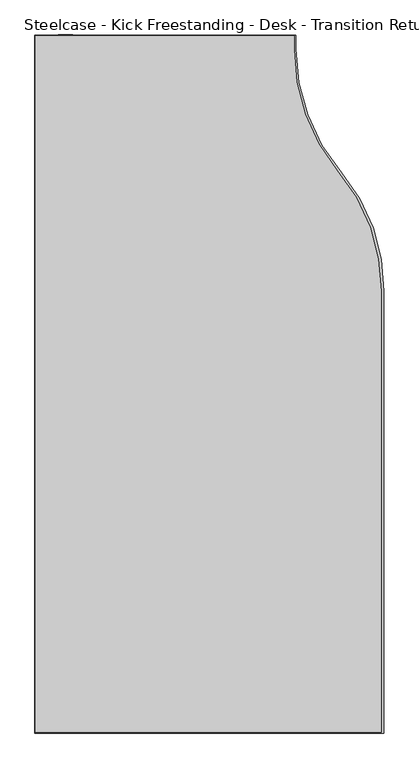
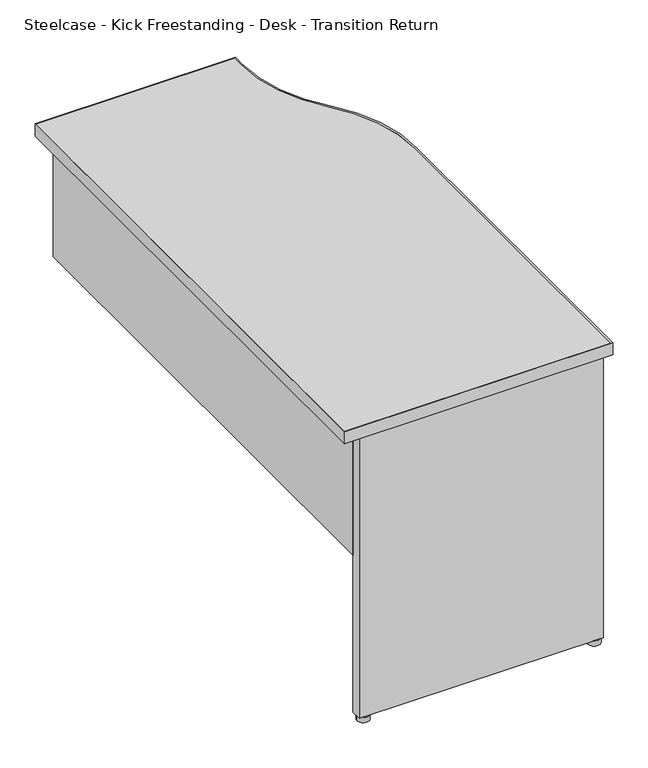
"""IFC4 building model written with IfcOpenShell, lengths in millimetres: furniture geometry, Steelcase - Kick Freestanding - Desk - Transition Return : 18D x 48W - Left - Half Panel."""

import ifcopenshell
import ifcopenshell.guid

model = None  # the IFC model being written
_history = None  # IfcOwnerHistory: only IFC2X3 demands one
_inside = {}  # id of a spatial element -> (the spatial element, [elements in it])
_under = {}  # id of a project, library or spatial element -> (it, [spatial elements below it])
_declared = {}  # id of a project -> (the project, [libraries it declares])
_typed = {}  # id of a type object -> (the type object, [elements of that type])
_made_of = {}  # id of a material, layer set ... -> (it, [elements and type objects made of it])


def new_model(schema):
    """Start an empty IFC model of exactly this schema.

    Asked for "IFC4X3", IfcOpenShell would pick the latest addendum, in which some entities
    have other attributes; the version numbers below select the first issue.
    IFC2X3 requires an IfcOwnerHistory on every rooted entity: one is made here for all.
    """
    global model, _history
    if schema == "IFC4X3":
        model = ifcopenshell.file(schema_version=(4, 3, 0, 0))
    else:
        model = ifcopenshell.file(schema=schema)
    _inside.clear()
    _under.clear()
    _declared.clear()
    _typed.clear()
    _made_of.clear()
    _history = None
    if model.schema == "IFC2X3":
        org = make("IfcOrganization", Name="unknown")
        user = make(
            "IfcPersonAndOrganization",
            ThePerson=make("IfcPerson", FamilyName="unknown"),
            TheOrganization=org,
        )
        app = make(
            "IfcApplication",
            ApplicationDeveloper=org,
            Version="unknown",
            ApplicationFullName="unknown",
            ApplicationIdentifier="unknown",
        )
        _history = make(
            "IfcOwnerHistory",
            OwningUser=user,
            OwningApplication=app,
            ChangeAction="ADDED",
            CreationDate=0,
        )
    return model


def make(cls, **values):
    """One entity of the class cls with the attributes given. An attribute that is None is left unset."""
    return model.create_entity(
        cls, **{name: value for name, value in values.items() if value is not None}
    )


def rooted(cls, **values):
    """An entity with a GlobalId (a new one), such as an element, a storey or a relation."""
    return make(cls, GlobalId=ifcopenshell.guid.new(), OwnerHistory=_history, **values)


def si_unit(unit_type, name, prefix=None):
    """IfcSIUnit, for example si_unit("LENGTHUNIT", "METRE", prefix="MILLI")."""
    return make("IfcSIUnit", UnitType=unit_type, Prefix=prefix, Name=name)


def assignment(units):
    """IfcUnitAssignment: the units of a project."""
    return None if units is None else make("IfcUnitAssignment", Units=units)


def point(xyz):
    """IfcCartesianPoint."""
    return None if xyz is None else make("IfcCartesianPoint", Coordinates=xyz)


def direction(xyz):
    """IfcDirection."""
    return None if xyz is None else make("IfcDirection", DirectionRatios=xyz)


def frame(location, z_axis=None, x_axis=None):
    """IfcAxis2Placement3D, a coordinate frame: its origin and axes. An axis left out is left unset."""
    return make(
        "IfcAxis2Placement3D",
        Location=point(location),
        Axis=direction(z_axis),
        RefDirection=direction(x_axis),
    )


def frame_2d(location, x_axis=None):
    """IfcAxis2Placement2D, a coordinate frame in the plane: its origin and x axis."""
    return make(
        "IfcAxis2Placement2D", Location=point(location), RefDirection=direction(x_axis)
    )


def origin():
    """The frame at (0, 0, 0) with its axes left unset."""
    return frame((0.0, 0.0, 0.0))


def origin_with_axes():
    """The frame at (0, 0, 0) with the z axis (0, 0, 1) and the x axis (1, 0, 0) written out."""
    return frame((0.0, 0.0, 0.0), z_axis=(0.0, 0.0, 1.0), x_axis=(1.0, 0.0, 0.0))


def place(relative_to, where):
    """IfcLocalPlacement: puts the frame where relative to a parent placement (None: the world)."""
    return make(
        "IfcLocalPlacement", PlacementRelTo=relative_to, RelativePlacement=where
    )


def context(
    kind, dimensions, precision=None, world=None, true_north=None, identifier=None
):
    """IfcGeometricRepresentationContext, for example the 3D "Model" context."""
    return make(
        "IfcGeometricRepresentationContext",
        ContextIdentifier=identifier,
        ContextType=kind,
        CoordinateSpaceDimension=dimensions,
        Precision=precision,
        WorldCoordinateSystem=world,
        TrueNorth=true_north,
    )


def project(units=None, contexts=None):
    """IfcProject with its units and contexts."""
    return rooted(
        "IfcProject",
        Name="project",
        RepresentationContexts=contexts,
        UnitsInContext=assignment(units),
    )


def spatial(cls, under=None, at=None, **own):
    """A site, building, storey or space (cls), placed at a placement, below another one or the project."""
    s = rooted(cls, ObjectPlacement=at, **own)
    if under is not None:
        _under.setdefault(under.id(), (under, []))[1].append(s)
    return s


def polyline(points):
    """IfcPolyline through the points."""
    return make("IfcPolyline", Points=[point(p) for p in points])


def circle_curve(where, radius):
    """IfcCircle in the frame where."""
    return make("IfcCircle", Position=where, Radius=radius)


def trimmed(basis, trim1, trim2, sense, master):
    """IfcTrimmedCurve: the piece of a basis curve between two trims."""
    return make(
        "IfcTrimmedCurve",
        BasisCurve=basis,
        Trim1=trim1,
        Trim2=trim2,
        SenseAgreement=sense,
        MasterRepresentation=master,
    )


def segment(curve, same_sense, transition):
    """IfcCompositeCurveSegment."""
    return make(
        "IfcCompositeCurveSegment",
        Transition=transition,
        SameSense=same_sense,
        ParentCurve=curve,
    )


def composite_curve(segments, self_intersect=None):
    """IfcCompositeCurve: segments joined end to end."""
    return make("IfcCompositeCurve", Segments=segments, SelfIntersect=self_intersect)


def outline(outer, holes=None, kind="AREA"):
    """IfcArbitraryClosedProfileDef: a profile drawn as a closed curve; with holes, ...WithVoids."""
    if holes is None:
        return make("IfcArbitraryClosedProfileDef", ProfileType=kind, OuterCurve=outer)
    return make(
        "IfcArbitraryProfileDefWithVoids",
        ProfileType=kind,
        OuterCurve=outer,
        InnerCurves=holes,
    )


def extrude(swept, where, along, depth):
    """IfcExtrudedAreaSolid: the profile swept, set in the frame where, extruded along a direction by depth."""
    return make(
        "IfcExtrudedAreaSolid",
        SweptArea=swept,
        Position=where,
        ExtrudedDirection=direction(along),
        Depth=depth,
    )


def shape(context_of_items, identifier, shape_type, items):
    """IfcShapeRepresentation: the items that make up one representation, for example the "Body"."""
    return make(
        "IfcShapeRepresentation",
        ContextOfItems=context_of_items,
        RepresentationIdentifier=identifier,
        RepresentationType=shape_type,
        Items=items,
    )


def source(mapping_origin, context_of_items, identifier, shape_type, items):
    """IfcRepresentationMap: a shape defined once, which mapped items show again and again."""
    return make(
        "IfcRepresentationMap",
        MappingOrigin=mapping_origin,
        MappedRepresentation=shape(context_of_items, identifier, shape_type, items),
    )


def transform(
    local_origin,
    x_axis=None,
    y_axis=None,
    z_axis=None,
    scale=None,
    scale2=None,
    scale3=None,
    uniform=True,
):
    """IfcCartesianTransformationOperator3D, or its non-uniform kind. x_axis, y_axis, z_axis: its Axis1, 2, 3."""
    if uniform:
        return make(
            "IfcCartesianTransformationOperator3D",
            Axis1=direction(x_axis),
            Axis2=direction(y_axis),
            LocalOrigin=point(local_origin),
            Scale=scale,
            Axis3=direction(z_axis),
        )
    return make(
        "IfcCartesianTransformationOperator3DnonUniform",
        Axis1=direction(x_axis),
        Axis2=direction(y_axis),
        LocalOrigin=point(local_origin),
        Scale=scale,
        Axis3=direction(z_axis),
        Scale2=scale2,
        Scale3=scale3,
    )


def mapped(mapping_source, mapping_target):
    """IfcMappedItem: shows the shape of a source again, moved by a transform."""
    return make(
        "IfcMappedItem", MappingSource=mapping_source, MappingTarget=mapping_target
    )


def made_of(thing, what):
    """Note that an element or type object is made of a material, layer set ...; save() writes the relation."""
    if what is not None:
        _made_of.setdefault(what.id(), (what, []))[1].append(thing)
    return thing


def element(
    cls,
    number,
    at=None,
    inside=None,
    cuts=None,
    type_object=None,
    material=None,
    context=None,
    identifier="Body",
    shape_type=None,
    held_by="IfcProductDefinitionShape",
    body=None,
    shapes=None,
    **own,
):
    """One element of the class cls, such as IfcWall. Its Tag is "e" and its number.

    at: its placement. inside: the storey or other place that contains it. cuts: it is an
    opening in that element (IfcRelVoidsElement). A single representation is given by context,
    identifier, shape_type and body (its items); several are given by shapes. held_by: the class
    of the entity that holds the representations. save() writes the other relations.
    """
    e = rooted(cls, Tag="e%d" % number, ObjectPlacement=at, **own)
    if body is not None:
        shapes = [shape(context, identifier, shape_type, body)]
    if shapes is not None:
        e.Representation = make(held_by, Representations=shapes)
    if inside is not None:
        _inside.setdefault(inside.id(), (inside, []))[1].append(e)
    if cuts is not None:
        rooted(
            "IfcRelVoidsElement", RelatingBuildingElement=cuts, RelatedOpeningElement=e
        )
    if type_object is not None:
        _typed.setdefault(type_object.id(), (type_object, []))[1].append(e)
    return made_of(e, material)


def aggregate(whole, parts):
    """IfcRelAggregates: a whole, such as a stair, and the parts it consists of."""
    return rooted("IfcRelAggregates", RelatingObject=whole, RelatedObjects=parts)


def save(model, path):
    """Write the relations noted so far, then the file.

    IfcRelAggregates (storeys below a building ...), IfcRelContainedInSpatialStructure (elements
    in a storey), IfcRelDefinesByType, IfcRelAssociatesMaterial and IfcRelDeclares: one each for
    every whole, place, type object, material and project.
    """
    for whole, parts in _under.values():
        aggregate(whole, parts)
    for where, things in _inside.values():
        rooted(
            "IfcRelContainedInSpatialStructure",
            RelatedElements=things,
            RelatingStructure=where,
        )
    for kind, things in _typed.values():
        rooted("IfcRelDefinesByType", RelatedObjects=things, RelatingType=kind)
    for what, things in _made_of.values():
        rooted("IfcRelAssociatesMaterial", RelatedObjects=things, RelatingMaterial=what)
    for by, libraries in _declared.values():
        rooted("IfcRelDeclares", RelatingContext=by, RelatedDefinitions=libraries)
    model.write(path)


def steelcase_kick_freestanding_desk_transition_return_336392b0(model_context):
    return source(origin(), model_context, "Body", "SweptSolid", [
        extrude(outline(composite_curve([segment(trimmed(circle_curve(frame_2d((2220.2474425, -1741.1225152)), 13.97), [point((2206.2774425, -1741.1225152))], [point((2234.2174425, -1741.1225152))], False, "CARTESIAN"), True, "CONTINUOUS"), segment(trimmed(circle_curve(frame_2d((2220.2474425, -1741.1225152)), 13.97), [point((2234.2174425, -1741.1225152))], [point((2206.2774425, -1741.1225152))], False, "CARTESIAN"), True, "CONTINUOUS")], self_intersect=False)), origin_with_axes(), (0.0, 0.0, 1.0), 12.7),
        extrude(outline(composite_curve([segment(trimmed(circle_curve(frame_2d((2745.2654425, -1741.0400875)), 13.97), [point((2731.2954425, -1741.0400875))], [point((2759.2354425, -1741.0400875))], False, "CARTESIAN"), True, "CONTINUOUS"), segment(trimmed(circle_curve(frame_2d((2745.2654425, -1741.0400875)), 13.97), [point((2759.2354425, -1741.0400875))], [point((2731.2954425, -1741.0400875))], False, "CARTESIAN"), True, "CONTINUOUS")], self_intersect=False)), origin_with_axes(), (0.0, 0.0, 1.0), 12.7),
        extrude(outline(composite_curve([segment(polyline([(2616.8176592, -547.8051152), (2616.8176592, -572.1320079)]), True, "CONTINUOUS"), segment(trimmed(circle_curve(frame_2d((2941.6463505, -574.5942763)), 324.8380233), [point((2616.8176592, -572.1320079))], [point((2692.5587903, -783.1011797))], True, "CARTESIAN"), True, "CONTINUOUS"), segment(trimmed(circle_curve(frame_2d((2440.4841513, -994.1085152)), 328.7335079), [point((2692.5587903, -783.1011797))], [point((2769.2176592, -994.1085152))], False, "CARTESIAN"), True, "CONTINUOUS"), segment(polyline([(2769.2176592, -994.1085152), (2769.2176592, -1764.2619332), (2164.8500425, -1764.2619332), (2164.8500425, -547.8051152), (2616.8176592, -547.8051152)]), True, "CONTINUOUS")], self_intersect=False)), frame((0.0, 0.0, 694.944), z_axis=(0.0, 0.0, 1.0), x_axis=(1.0, 0.0, 0.0)), (0.0, 0.0, 1.0), 28.956),
        extrude(outline(composite_curve([segment(polyline([(2619.7894255, -546.8145152), (2619.7894255, -571.0836731)]), True, "CONTINUOUS"), segment(trimmed(circle_curve(frame_2d((2951.3460478, -571.0836731)), 331.5566223), [point((2619.7894255, -571.0836731))], [point((2699.261298, -786.4509703))], True, "CARTESIAN"), True, "CONTINUOUS"), segment(trimmed(circle_curve(frame_2d((2463.6949436, -987.7058619)), 309.8306613), [point((2699.261298, -786.4509703))], [point((2773.4594425, -994.1085152))], False, "CARTESIAN"), True, "CONTINUOUS"), segment(polyline([(2773.4594425, -994.1085152), (2773.4594425, -1766.0145152), (2163.8594425, -1766.0145152), (2163.8594425, -546.8145152), (2619.7894255, -546.8145152)]), True, "CONTINUOUS")], self_intersect=False), holes=[composite_curve([segment(polyline([(2616.8176592, -547.8051152), (2164.8500425, -547.8051152), (2164.8500425, -1764.2619332), (2769.2176592, -1764.2619332), (2769.2176592, -994.1085152)]), True, "CONTINUOUS"), segment(trimmed(circle_curve(frame_2d((2440.4841513, -994.1085152)), 328.7335079), [point((2769.2176592, -994.1085152))], [point((2692.5587903, -783.1011797))], True, "CARTESIAN"), True, "CONTINUOUS"), segment(trimmed(circle_curve(frame_2d((2941.6463505, -574.5942763)), 324.8380233), [point((2692.5587903, -783.1011797))], [point((2616.8176592, -572.1320079))], False, "CARTESIAN"), True, "CONTINUOUS"), segment(polyline([(2616.8176592, -572.1320079), (2616.8176592, -547.8051152)]), True, "CONTINUOUS")], self_intersect=False)]), frame((0.0, 0.0, 694.944), z_axis=(0.0, 0.0, 1.0), x_axis=(1.0, 0.0, 0.0)), (0.0, 0.0, 1.0), 28.956),
        extrude(outline(polyline([(2205.0074425, -1728.0669041), (2328.2736437, -1728.0669041), (2328.2736437, -1750.4951136), (2427.9940467, -1750.4951136), (2427.9940467, -1728.0669041), (2536.7314502, -1728.0669041), (2536.7314502, -1750.4951136), (2636.4518532, -1750.4951136), (2636.4518532, -1728.0669041), (2759.4894376, -1728.0669041), (2759.4894376, -1752.5525152), (2205.0074425, -1752.5525152), (2205.0074425, -1728.0669041)])), frame((0.0, 0.0, 12.7), z_axis=(0.0, 0.0, 1.0), x_axis=(1.0, 0.0, 0.0)), (0.0, 0.0, 1.0), 682.244),
        extrude(outline(polyline([(2230.4074426, -546.0525152), (2230.4074426, -1728.0669041), (2205.0074425, -1728.0669041), (2205.0074425, -546.0525152), (2230.4074426, -546.0525152)])), frame((0.0, 0.0, 390.144), z_axis=(0.0, 0.0, 1.0), x_axis=(1.0, 0.0, 0.0)), (0.0, 0.0, 1.0), 304.8),
    ])


if __name__ == "__main__":
    model = new_model("IFC4")
    model_context = context("Model", 3, world=origin())
    ifc_project = project(units=[si_unit("LENGTHUNIT", "METRE", prefix="MILLI")], contexts=[model_context])
    site = spatial("IfcSite", under=ifc_project)
    building = spatial("IfcBuilding", under=site)
    placement = place(None, origin())
    steelcase_kick_freestanding_desk_transition_return_shape = steelcase_kick_freestanding_desk_transition_return_336392b0(model_context)
    element("IfcFurniture", 1, ObjectType="Steelcase - Kick Freestanding - Desk - Transition Return : 18D x 48W - Left - Half Panel", at=placement, inside=building, context=model_context, shape_type="MappedRepresentation", body=[
        mapped(steelcase_kick_freestanding_desk_transition_return_shape, transform((0.0, 0.0, 0.0), x_axis=(1.0, 0.0, 0.0), y_axis=(0.0, 1.0, 0.0), z_axis=(0.0, 0.0, 1.0))),
    ])
    save(model, "model.ifc")
